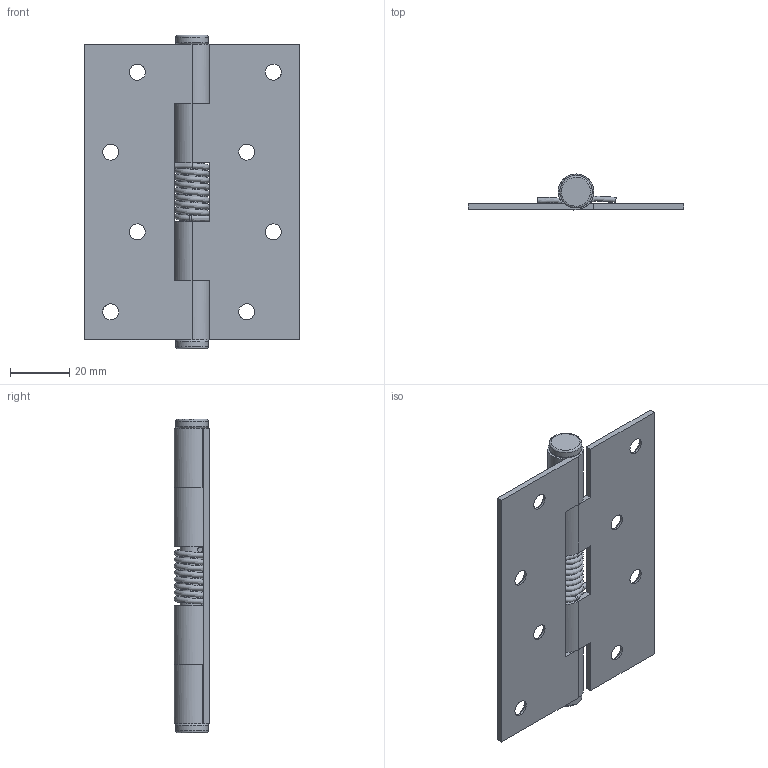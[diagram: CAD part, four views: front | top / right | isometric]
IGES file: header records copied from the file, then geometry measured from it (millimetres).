
Global section: file name: DR_HS10073-20; native system: Autodesk Inventor 2015; preprocessor: unknown; author: Administrator; date: 20170821.145924; units: millimetre
Bounding box: 73 x 12.07 x 106 mm (x, y, z)
Volume: 23245.7 mm3; surface area: 23410.6 mm2
Topology: 6 solids, 6 shells, 68 faces, 180 edges, 126 vertices
Faces by surface type: bspline 68
